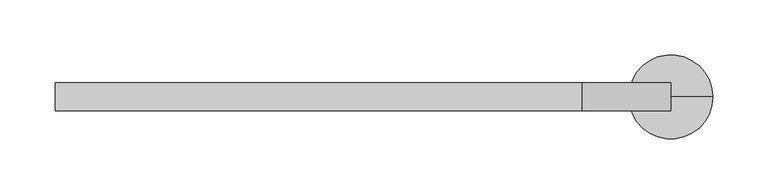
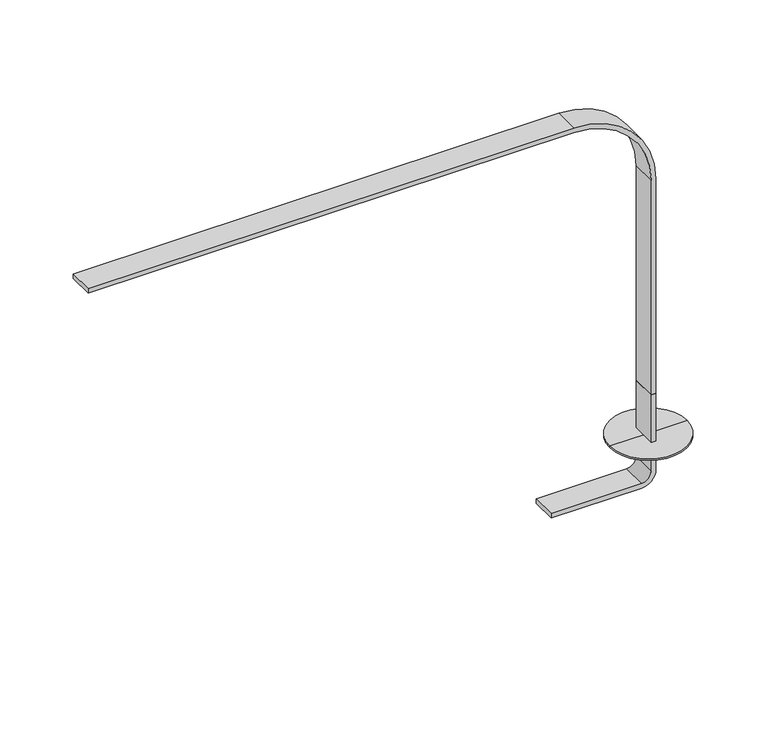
"""IFC4 building model written with IfcOpenShell, lengths in millimetres: light fixture geometry, Haworth_LIM_Light_CL : LLxx-0022 - Grommet Mount."""

from ifc_helpers import new_model, si_unit, point, frame, frame_2d, origin, place, context, project, spatial, polyline, circle_curve, trimmed, segment, composite_curve, outline, extrude, source, transform, mapped, element, save
from ifc_brep_helpers import plane_surface, cylinder_surface, advanced_brep


def light_fixture_47b0d56d(model_context):
    return source(origin(), model_context, "Body", "SolidModel", [
        extrude(outline(composite_curve([segment(polyline([(693.7375, -73.7588699), (693.7375, 15.1411301)]), True, "CONTINUOUS"), segment(trimmed(circle_curve(frame_2d((708.025, 15.1411301)), 14.2875), [point((693.7375, 15.1411301))], [point((708.025, 29.4286301))], False, "CARTESIAN"), True, "CONTINUOUS"), segment(polyline([(708.025, 29.4286301), (787.4, 29.4286301), (787.4, 24.6661301), (708.025, 24.6661301)]), True, "CONTINUOUS"), segment(trimmed(circle_curve(frame_2d((708.025, 15.1411301)), 9.525), [point((708.025, 24.6661301))], [point((698.5, 15.1411301))], True, "CARTESIAN"), True, "CONTINUOUS"), segment(polyline([(698.5, 15.1411301), (698.5, -73.7588699), (693.7375, -73.7588699)]), True, "CONTINUOUS")], self_intersect=False)), frame((0.0, -236.9532085, 0.0), z_axis=(0.0, 1.0, 0.0), x_axis=(0.0, 0.0, 1.0)), (0.0, 0.0, 1.0), 25.4),
        extrude(outline(composite_curve([segment(polyline([(1087.4375, -529.3713699), (1087.4375, -51.5338699)]), True, "CONTINUOUS"), segment(trimmed(circle_curve(frame_2d((1011.2375, -51.5338699)), 76.2), [point((1087.4375, -51.5338699))], [point((1011.2375, 24.6661301))], True, "CARTESIAN"), True, "CONTINUOUS"), segment(polyline([(1011.2375, 24.6661301), (787.4, 24.6661301), (787.4, 29.4286301), (1011.2375, 29.4286301)]), True, "CONTINUOUS"), segment(trimmed(circle_curve(frame_2d((1011.2375, -51.5338699)), 80.9625), [point((1011.2375, 29.4286301))], [point((1092.2, -51.5338699))], False, "CARTESIAN"), True, "CONTINUOUS"), segment(polyline([(1092.2, -51.5338699), (1092.2, -529.3713699), (1087.4375, -529.3713699)]), True, "CONTINUOUS")], self_intersect=False)), frame((0.0, -236.9532085, 0.0), z_axis=(0.0, 1.0, 0.0), x_axis=(0.0, 0.0, 1.0)), (0.0, 0.0, 1.0), 25.4),
        advanced_brep(
        [(-8.6713699, -224.2532085, 736.6), (29.4286301, -224.2532085, 736.6), (67.5286301, -224.2532085, 736.6), (-8.6713699, -224.2532085, 738.1875), (67.5286301, -224.2532085, 738.1875), (29.4286301, -224.2532085, 738.1875)],
        [
            (0, 1),
            (1, 2),
            (2, 0, circle_curve(frame((29.4286301, -224.2532085, 736.6), z_axis=(0.0, 0.0, -1.0), x_axis=(1.0, 0.0, 0.0)), 38.1)),
            (0, 2, circle_curve(frame((29.4286301, -224.2532085, 736.6), z_axis=(0.0, 0.0, -1.0), x_axis=(1.0, 0.0, 0.0)), 38.1)),
            (3, 0),
            (2, 4),
            (4, 3, circle_curve(frame((29.4286301, -224.2532085, 738.1875), z_axis=(0.0, 0.0, -1.0), x_axis=(1.0, 0.0, 0.0)), 38.1)),
            (3, 4, circle_curve(frame((29.4286301, -224.2532085, 738.1875), z_axis=(0.0, 0.0, -1.0), x_axis=(1.0, 0.0, 0.0)), 38.1)),
            (5, 3),
            (4, 5),
        ],
        [
            plane_surface(frame((29.4286301, -224.2532085, 736.6), z_axis=(0.0, 0.0, -1.0), x_axis=(1.0, 0.0, 0.0))),
            cylinder_surface(frame((29.4286301, -224.2532085, 771.1186022), z_axis=(0.0, 0.0, 1.0), x_axis=(1.0, 0.0, 0.0)), 38.1),
            plane_surface(frame((29.4286301, -224.2532085, 738.1875), z_axis=(0.0, 0.0, 1.0), x_axis=(1.0, 0.0, 0.0))),
        ],
        [
            (0, [[1, 2, 3]]),
            (0, [[-2, -1, 4]]),
            (1, [[5, -3, 6, 7]]),
            (1, [[-6, -4, -5, 8]]),
            (2, [[9, -7, 10]]),
            (2, [[-10, -8, -9]]),
        ],
    ),
    ])


if __name__ == "__main__":
    model = new_model("IFC4")
    model_context = context("Model", 3, world=origin())
    ifc_project = project(units=[si_unit("LENGTHUNIT", "METRE", prefix="MILLI")], contexts=[model_context])
    site = spatial("IfcSite", under=ifc_project)
    building = spatial("IfcBuilding", under=site)
    placement = place(None, origin())
    light_fixture_shape = light_fixture_47b0d56d(model_context)
    element("IfcLightFixture", 1, ObjectType="Haworth_LIM_Light_CL : LLxx-0022 - Grommet Mount", at=placement, inside=building, context=model_context, shape_type="MappedRepresentation", body=[
        mapped(light_fixture_shape, transform((0.0, 0.0, 0.0), x_axis=(1.0, 0.0, 0.0), y_axis=(0.0, 1.0, 0.0), z_axis=(0.0, 0.0, 1.0))),
    ])
    save(model, "model.ifc")
